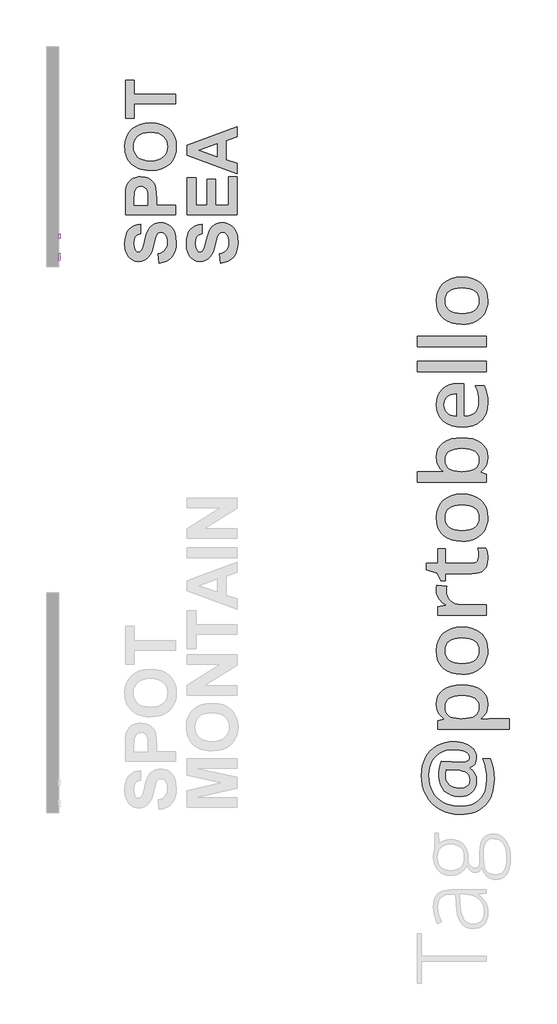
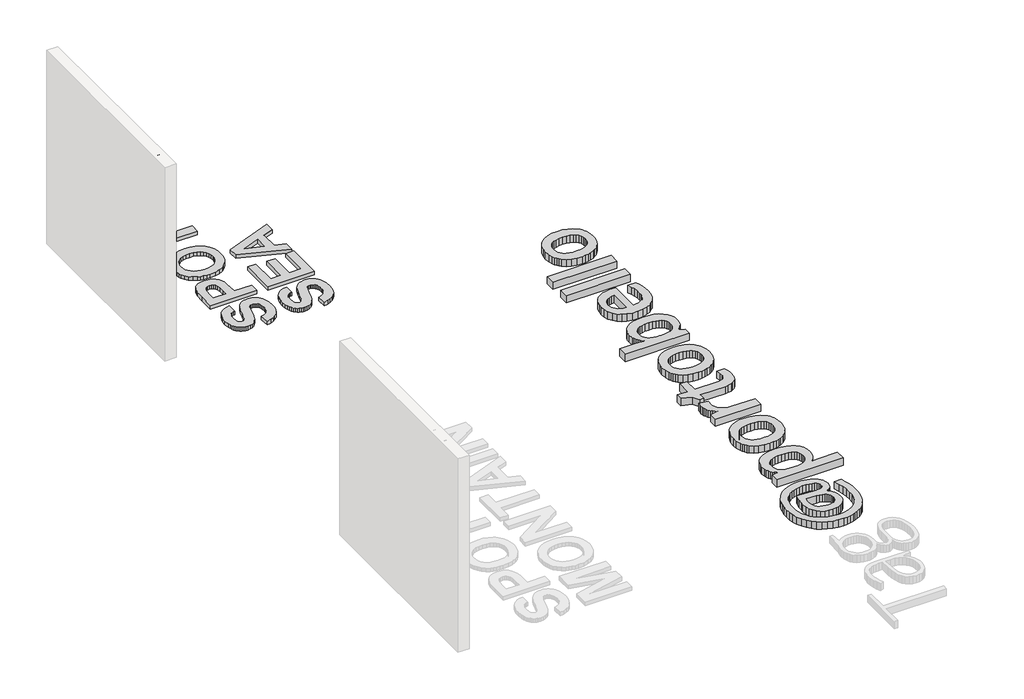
# One storey, part 3 of 7: 4 proxies.
"""IFC4 building model written with IfcOpenShell, lengths in millimetres."""

from ifc_helpers import new_model, si_unit, frame, origin, origin_with_axes, place, context, project, spatial, polyline, outline, extrude, element, save

model = new_model("IFC4")

# Units and contexts
model_context = context("Model", 3, world=origin())
ifc_project = project(units=[si_unit("LENGTHUNIT", "METRE", prefix="MILLI")], contexts=[model_context])

# Site, building, storey
site = spatial("IfcSite", under=ifc_project)
building = spatial("IfcBuilding", under=site)
storey = spatial("IfcBuildingStorey", under=building, Name="PORTOBELLO - SHOWROOM", Elevation=0.0)

# Proxies
placement = place(None, origin())
element("IfcBuildingElementProxy", 1, Name="10mm Arial", ObjectType="10mm Arial", at=placement, inside=storey, context=model_context, shape_type="SweptSolid", body=[
    extrude(outline(polyline([(-2875.3888052, 2589.5177386), (-2862.8317665, 2586.2803771), (-2868.6259079, 2571.6478707), (-2877.7187245, 2560.9578331), (-2889.6626266, 2554.4187306), (-2904.0100244, 2552.2390298), (-2918.5750858, 2553.8883674), (-2930.1419088, 2558.8363802), (-2939.0078649, 2566.91139), (-2945.4703253, 2577.9417185), (-2950.7310378, 2604.7971042), (-2949.2441814, 2619.4449389), (-2944.7836122, 2632.0939482), (-2937.5823222, 2642.3425274), (-2927.8733032, 2649.7890722), (-2916.3585968, 2654.3232178), (-2903.7402443, 2655.8345996), (-2889.9722606, 2653.8786937), (-2878.5893786, 2648.0109759), (-2869.9472174, 2638.5931968), (-2864.4013963, 2625.9871071), (-2876.9584351, 2622.9950002), (-2887.2591309, 2638.4337812), (-2904.2307536, 2643.2775609), (-2923.8756522, 2637.9064837), (-2934.9734257, 2623.4855095), (-2938.1739991, 2604.8216296), (-2934.3848145, 2583.1901683), (-2922.5880652, 2569.370068), (-2905.2608232, 2564.7960685), (-2894.7792521, 2566.3534357), (-2886.0451204, 2571.025537), (-2879.4508356, 2578.7633216), (-2875.3888052, 2589.5177386)])), frame((40576.625413, 0.0, 0.0), z_axis=(1.0, 0.0, 0.0), x_axis=(0.0, 1.0, 0.0)), (0.0, 0.0, 1.0), 20.0),
    extrude(outline(polyline([(-2847.135468, 2553.8086596), (-2847.135468, 2627.5812624), (-2836.1480591, 2627.5812624), (-2836.1480591, 2616.6674299), (-2828.3489608, 2626.7228711), (-2820.5008115, 2629.1508922), (-2807.8947218, 2625.2758686), (-2812.0885766, 2614.0186795), (-2820.9177445, 2616.5938535), (-2828.017867, 2614.1167814), (-2832.5428155, 2607.2496508), (-2834.5784292, 2592.5834219), (-2834.5784292, 2553.8086596), (-2847.135468, 2553.8086596)])), frame((40576.625413, 0.0, 0.0), z_axis=(1.0, 0.0, 0.0), x_axis=(0.0, 1.0, 0.0)), (0.0, 0.0, 1.0), 20.0),
    extrude(outline(polyline([(-2752.9576772, 2553.8086596), (-2752.9576772, 2566.4883257), (-2762.7923892, 2555.8013538), (-2775.6192081, 2552.2390298), (-2787.4282202, 2554.7406273), (-2795.570675, 2561.0191467), (-2799.3108086, 2570.2652475), (-2800.0465726, 2581.9393695), (-2800.0465726, 2627.5812624), (-2787.4895338, 2627.5812624), (-2787.4895338, 2587.8500069), (-2786.7292444, 2575.0477135), (-2781.7628375, 2567.530658), (-2772.406372, 2564.7960685), (-2761.9217352, 2567.5919717), (-2754.9932909, 2575.207129), (-2752.9576772, 2589.1989076), (-2752.9576772, 2627.5812624), (-2740.4006385, 2627.5812624), (-2740.4006385, 2553.8086596), (-2752.9576772, 2553.8086596)])), frame((40576.625413, 0.0, 0.0), z_axis=(1.0, 0.0, 0.0), x_axis=(0.0, 1.0, 0.0)), (0.0, 0.0, 1.0), 20.0),
])
element("IfcBuildingElementProxy", 2, Name="10mm Arial Narrow", ObjectType="10mm Arial Narrow", at=placement, inside=storey, context=model_context, shape_type="SweptSolid", body=[
    extrude(outline(polyline([(-2683.7082487, 2553.8086596), (-2683.7082487, 2654.5272634), (-2652.411364, 2654.5272634), (-2636.1156625, 2652.6489426), (-2624.6426764, 2643.1684995), (-2620.3529979, 2626.1493906), (-2622.1393063, 2614.0735651), (-2627.4982315, 2604.4471713), (-2637.2420203, 2598.1459129), (-2652.1829196, 2596.0454935), (-2673.961287, 2596.0454935), (-2673.961287, 2553.8086596), (-2683.7082487, 2553.8086596)]), holes=[polyline([(-2673.961287, 2607.4169487), (-2650.9899321, 2607.4169487), (-2635.1257367, 2611.9477629), (-2630.0999596, 2625.6163537), (-2632.5747741, 2635.7821301), (-2638.5524029, 2641.5820799), (-2651.2183765, 2643.1558081), (-2673.961287, 2643.1558081), (-2673.961287, 2607.4169487)])]), frame((40576.625413, 0.0, 0.0), z_axis=(1.0, 0.0, 0.0), x_axis=(0.0, 1.0, 0.0)), (0.0, 0.0, 1.0), 20.0),
    extrude(outline(polyline([(-2612.2305299, 2590.3597658), (-2610.276061, 2606.9505414), (-2604.4126544, 2618.9026262), (-2595.5540877, 2626.1271808), (-2584.6141385, 2628.5353656), (-2573.8011029, 2626.1271808), (-2564.9171535, 2618.9026262), (-2558.9775988, 2607.1409117), (-2556.9977472, 2591.1212472), (-2558.9426975, 2573.9593606), (-2564.7775486, 2561.8169055), (-2573.6265968, 2554.5923509), (-2584.6141385, 2552.184166), (-2595.4747667, 2554.5986966), (-2604.3491976, 2561.8422882), (-2610.2601968, 2573.8007187), (-2612.2305299, 2590.3597658)]), holes=[polyline([(-2602.4835682, 2590.3851485), (-2601.1795314, 2577.8333971), (-2597.2674208, 2568.9621391), (-2591.426224, 2563.6888805), (-2584.3349287, 2561.9311277), (-2577.6148555, 2563.7047447), (-2571.9227822, 2569.0255959), (-2568.0392272, 2577.9127181), (-2566.7447088, 2590.3851485), (-2568.0487457, 2602.8988259), (-2571.9608563, 2611.7573926), (-2577.802053, 2617.0306511), (-2584.8933484, 2618.788404), (-2591.6610141, 2617.0211326), (-2597.3435689, 2611.7193185), (-2601.1985684, 2602.8512333), (-2602.4835682, 2590.3851485)])]), frame((40576.625413, 0.0, 0.0), z_axis=(1.0, 0.0, 0.0), x_axis=(0.0, 1.0, 0.0)), (0.0, 0.0, 1.0), 20.0),
    extrude(outline(polyline([(-2485.5200284, 2561.9311277), (-2483.8955348, 2552.184166), (-2491.2565214, 2552.184166), (-2499.5312858, 2554.3036225), (-2503.8463469, 2560.1035724), (-2505.0139517, 2574.7493976), (-2505.0139517, 2617.1639104), (-2513.1364197, 2617.1639104), (-2513.1364197, 2620.4128976), (-2514.7609133, 2615.5394168), (-2522.3249617, 2617.1639104), (-2528.4041214, 2614.8413922), (-2532.2749851, 2608.3561091), (-2534.2548366, 2592.9488025), (-2534.2548366, 2553.8086596), (-2544.0017983, 2553.8086596), (-2544.0017983, 2626.910872), (-2534.2548366, 2626.910872), (-2534.2548366, 2617.2146758), (-2528.0106893, 2626.3016869), (-2521.6142458, 2628.5353656), (-2513.1364197, 2626.910872), (-2505.0139517, 2626.910872), (-2505.0139517, 2643.1558081), (-2495.26699, 2651.2782762), (-2495.26699, 2626.910872), (-2485.5200284, 2626.910872), (-2485.5200284, 2617.1639104), (-2495.26699, 2617.1639104), (-2495.26699, 2572.5157188), (-2494.4039778, 2564.5201644), (-2489.7843241, 2561.9311277), (-2485.5200284, 2561.9311277)])), frame((40576.625413, 0.0, 0.0), z_axis=(1.0, 0.0, 0.0), x_axis=(0.0, 1.0, 0.0)), (0.0, 0.0, 1.0), 20.0),
    extrude(outline(polyline([(-2479.0220539, 2590.3597658), (-2477.0675851, 2606.9505414), (-2471.2041785, 2618.9026262), (-2462.3456117, 2626.1271808), (-2451.4056626, 2628.5353656), (-2440.592627, 2626.1271808), (-2431.7086776, 2618.9026262), (-2425.7691228, 2607.1409117), (-2423.7892712, 2591.1212472), (-2425.7342216, 2573.9593606), (-2431.5690727, 2561.8169055), (-2440.4181209, 2554.5923509), (-2451.4056626, 2552.184166), (-2462.2662908, 2554.5986966), (-2471.1407217, 2561.8422882), (-2477.0517209, 2573.8007187), (-2479.0220539, 2590.3597658)]), holes=[polyline([(-2469.2750923, 2590.3851485), (-2467.9710554, 2577.8333971), (-2464.0589448, 2568.9621391), (-2458.2177481, 2563.6888805), (-2451.1264528, 2561.9311277), (-2444.4063796, 2563.7047447), (-2438.7143063, 2569.0255959), (-2434.8307512, 2577.9127181), (-2433.5362329, 2590.3851485), (-2434.8402698, 2602.8988259), (-2438.7523803, 2611.7573926), (-2444.5935771, 2617.0306511), (-2451.6848724, 2618.788404), (-2458.4525382, 2617.0211326), (-2464.135093, 2611.7193185), (-2467.9900925, 2602.8512333), (-2469.2750923, 2590.3851485)])]), frame((40576.625413, 0.0, 0.0), z_axis=(1.0, 0.0, 0.0), x_axis=(0.0, 1.0, 0.0)), (0.0, 0.0, 1.0), 20.0),
    extrude(outline(polyline([(-2401.0463607, 2553.8086596), (-2410.7933224, 2553.8086596), (-2410.7933224, 2654.5272634), (-2401.0463607, 2654.5272634), (-2401.0463607, 2619.1183792), (-2393.6473, 2626.2001561), (-2384.4460667, 2628.5353656), (-2371.56434, 2624.3345267), (-2362.2869585, 2611.6050963), (-2358.8095269, 2590.9181855), (-2360.7417859, 2574.463842), (-2366.5385629, 2562.2611029), (-2374.9116852, 2554.7034002), (-2384.5729802, 2552.184166), (-2393.9138185, 2554.7985854), (-2401.0463607, 2562.5656955), (-2401.0463607, 2553.8086596)]), holes=[polyline([(-2401.0463607, 2590.9181855), (-2398.9649783, 2573.6706323), (-2393.0761889, 2564.9389791), (-2384.6237456, 2561.9311277), (-2378.681018, 2563.7206089), (-2373.4426607, 2569.0890526), (-2368.5564885, 2590.5120621), (-2373.2649817, 2611.9477629), (-2378.5096847, 2617.0782437), (-2384.8268073, 2618.788404), (-2390.8044362, 2616.9989227), (-2396.0967318, 2611.630479), (-2401.0463607, 2590.9181855)])]), frame((40576.625413, 0.0, 0.0), z_axis=(1.0, 0.0, 0.0), x_axis=(0.0, 1.0, 0.0)), (0.0, 0.0, 1.0), 20.0),
    extrude(outline(polyline([(-2306.8257314, 2576.5515701), (-2297.0787697, 2574.9270765), (-2300.7783001, 2565.04051), (-2306.597287, 2557.9206591), (-2314.3009403, 2553.6182893), (-2323.6544699, 2552.184166), (-2335.2480239, 2554.5986966), (-2344.3921461, 2561.8422882), (-2350.3317009, 2573.6484224), (-2352.3115525, 2589.7505807), (-2350.3221823, 2606.4175044), (-2344.354072, 2618.5980336), (-2335.3400362, 2626.0510326), (-2324.2128896, 2628.5353656), (-2313.5299404, 2626.1366993), (-2304.782423, 2618.9407003), (-2298.947572, 2607.2011957), (-2297.0026216, 2591.1720126), (-2297.0787697, 2587.9230254), (-2342.5645908, 2587.9230254), (-2336.5615793, 2568.4798675), (-2330.631543, 2563.5683126), (-2323.5275563, 2561.9311277), (-2313.3490885, 2565.5862383), (-2306.8257314, 2576.5515701)]), holes=[polyline([(-2341.9046403, 2597.6699871), (-2306.8257314, 2597.6699871), (-2311.0900271, 2611.9350716), (-2316.9153597, 2617.0750709), (-2324.1367414, 2618.788404), (-2336.3458262, 2613.0772936), (-2341.9046403, 2597.6699871)])]), frame((40576.625413, 0.0, 0.0), z_axis=(1.0, 0.0, 0.0), x_axis=(0.0, 1.0, 0.0)), (0.0, 0.0, 1.0), 20.0),
    extrude(outline(polyline([(40596.625413, -2274.3358592), (40596.625413, -2284.0828209), (40576.625413, -2284.0828209), (40576.625413, -2274.3358592), (40596.625413, -2274.3358592)])), frame((0.0, 0.0, 2553.8086596), z_axis=(0.0, 0.0, 1.0), x_axis=(1.0, 0.0, 0.0)), (0.0, 0.0, 1.0), 100.7186038),
    extrude(outline(polyline([(40596.625413, -2248.3439615), (40596.625413, -2258.0909231), (40576.625413, -2258.0909231), (40576.625413, -2248.3439615), (40596.625413, -2248.3439615)])), frame((0.0, 0.0, 2553.8086596), z_axis=(0.0, 0.0, 1.0), x_axis=(1.0, 0.0, 0.0)), (0.0, 0.0, 1.0), 100.7186038),
    extrude(outline(polyline([(-2236.9725062, 2590.3597658), (-2235.0180373, 2606.9505414), (-2229.1546307, 2618.9026262), (-2220.296064, 2626.1271808), (-2209.3561149, 2628.5353656), (-2198.5430793, 2626.1271808), (-2189.6591299, 2618.9026262), (-2183.7195751, 2607.1409117), (-2181.7397235, 2591.1212472), (-2183.6846739, 2573.9593606), (-2189.5195249, 2561.8169055), (-2198.3685731, 2554.5923509), (-2209.3561149, 2552.184166), (-2220.216743, 2554.5986966), (-2229.0911739, 2561.8422882), (-2235.0021731, 2573.8007187), (-2236.9725062, 2590.3597658)]), holes=[polyline([(-2227.2255446, 2590.3851485), (-2225.9215077, 2577.8333971), (-2222.0093971, 2568.9621391), (-2216.1682004, 2563.6888805), (-2209.076905, 2561.9311277), (-2202.3568319, 2563.7047447), (-2196.6647585, 2569.0255959), (-2192.7812035, 2577.9127181), (-2191.4866852, 2590.3851485), (-2192.790722, 2602.8988259), (-2196.7028326, 2611.7573926), (-2202.5440294, 2617.0306511), (-2209.6353247, 2618.788404), (-2216.4029905, 2617.0211326), (-2222.0855453, 2611.7193185), (-2225.9405447, 2602.8512333), (-2227.2255446, 2590.3851485)])]), frame((40576.625413, 0.0, 0.0), z_axis=(1.0, 0.0, 0.0), x_axis=(0.0, 1.0, 0.0)), (0.0, 0.0, 1.0), 20.0),
])
element("IfcBuildingElementProxy", 3, Name="600mm Arial", ObjectType="600mm Arial", at=placement, inside=storey, context=model_context, shape_type="SweptSolid", body=[
    extrude(outline(polyline([(41805.8725694, -2982.5026004), (41796.1558132, -2865.9015261), (41824.2243335, -2858.8416954), (41848.3074656, -2848.8972028), (41868.4052093, -2836.0680481), (41884.5175648, -2820.3542315), (41896.8722685, -2801.7083077), (41905.6970568, -2780.0828318), (41910.9919298, -2755.4778037), (41912.7568875, -2727.8932233), (41911.1959437, -2698.9042681), (41906.5131125, -2673.7298988), (41898.7083938, -2652.3701154), (41887.7817876, -2634.824918), (41874.767597, -2621.1417515), (41860.7001253, -2611.3680612), (41845.5793724, -2605.503847), (41829.4053383, -2603.549109), (41809.5732871, -2606.7943537), (41792.8915904, -2616.5300879), (41778.7909071, -2634.3884231), (41766.701896, -2662.0014704), (41740.7399381, -2763.1164645), (41728.0720967, -2810.0491561), (41713.9049903, -2849.4285879), (41698.2386187, -2881.25476), (41681.0729821, -2905.5276724), (41654.4942379, -2930.7020418), (41625.1636779, -2948.6837341), (41593.0813022, -2959.4727495), (41558.2471109, -2963.069088), (41535.3216392, -2961.4179986), (41513.1552892, -2956.4647303), (41491.7480607, -2948.2092831), (41471.0999538, -2936.6516571), (41452.0365132, -2921.9816326), (41435.3832836, -2904.3889901), (41421.140265, -2883.8737294), (41409.3074574, -2860.4358507), (41400.0082181, -2834.2556453), (41393.3659043, -2805.5134046), (41388.0520532, -2740.3428172), (41391.3637211, -2686.4309517), (41401.2987247, -2639.6263619), (41417.8570642, -2599.929048), (41441.0387393, -2567.3390097), (41469.743024, -2541.7518681), (41502.8691918, -2523.0632437), (41540.4172428, -2511.2731367), (41582.387177, -2506.3815471), (41582.387177, -2622.9826214), (41560.7190005, -2628.2537718), (41542.3245358, -2635.8687101), (41527.2037829, -2645.8274363), (41515.3567417, -2658.1299504), (41506.4228297, -2673.2886594), (41500.0414639, -2691.8159704), (41494.9363713, -2738.9763984), (41500.3640906, -2788.6229495), (41507.1487397, -2808.8914956), (41516.6472484, -2826.1235555), (41532.9683623, -2841.3818992), (41553.99603, -2846.4680137), (41573.8470593, -2841.8373721), (41590.5856901, -2827.9454472), (41600.3071908, -2811.9801716), (41610.1900048, -2787.6171134), (41630.4395729, -2713.6976498), (41651.5051966, -2634.8059399), (41673.5576785, -2579.5608671), (41700.2597799, -2540.8456667), (41735.2742627, -2511.5435738), (41756.0077708, -2500.7830254), (41779.0376216, -2493.0969195), (41804.3638153, -2488.4852559), (41831.9863517, -2486.9480347), (41857.682617, -2488.765182), (41882.5438487, -2494.2166238), (41906.5700466, -2503.3023602), (41929.7612108, -2516.0223911), (41951.0735491, -2532.0683234), (41969.4632693, -2551.1317641), (41984.9303715, -2573.2127129), (41997.4748555, -2598.3111701), (42007.1726337, -2626.5552373), (42014.0996181, -2658.0730163), (42019.6412056, -2730.9297097), (42016.229903, -2785.4156609), (42005.9959952, -2833.1833861), (41988.9394823, -2874.2328854), (41965.0603642, -2908.5641588), (41934.6433115, -2936.4144316), (41897.9729948, -2958.0209295), (41855.0494141, -2973.3836524), (41805.8725694, -2982.5026004)])), origin_with_axes(), (0.0, 0.0, 1.0), 50.0),
    extrude(outline(polyline([(42009.9244494, -2389.7804728), (41397.7688094, -2389.7804728), (41397.7688094, -2192.560687), (41400.0461741, -2099.9098985), (41406.8782683, -2046.3538712), (41415.7267792, -2021.2316915), (41428.6081235, -1998.2445412), (41445.5223011, -1977.3924204), (41466.4693122, -1958.675329), (41491.0980628, -1943.2319494), (41519.0574594, -1932.200964), (41550.3475019, -1925.5823728), (41584.9681904, -1923.3761757), (41636.5315235, -1928.5571804), (41658.9683106, -1935.0334364), (41679.1751781, -1944.1001947), (41713.259737, -1967.6329636), (41739.1457827, -1996.7832322), (41757.2698104, -2028.9889651), (41768.0683148, -2061.6881271), (41774.5588043, -2116.534661), (41776.7223008, -2191.4979168), (41776.7223008, -2273.1793985), (42009.9244494, -2273.1793985), (42009.9244494, -2389.7804728)]), holes=[polyline([(41504.6531275, -2273.1793985), (41669.8379827, -2273.1793985), (41669.8379827, -2200.7592), (41667.560618, -2135.5316785), (41660.7285238, -2096.2281588), (41649.0190735, -2072.733346), (41632.1096403, -2054.931945), (41611.0250385, -2043.7159237), (41586.7900822, -2039.9772499), (41557.829594, -2045.2341669), (41534.4106933, -2061.0049176), (41517.6341065, -2084.7844011), (41508.6005597, -2114.0675159), (41504.6531275, -2209.2613617), (41504.6531275, -2273.1793985)])]), origin_with_axes(), (0.0, 0.0, 1.0), 50.0),
    extrude(outline(polyline([(41707.6422373, -1845.6421261), (41662.8350862, -1843.9246136), (41621.7855869, -1838.7720759), (41584.4937394, -1830.184513), (41550.9595437, -1818.161925), (41506.7217338, -1793.9269687), (41467.2284337, -1762.2146648), (41434.9088326, -1725.0746416), (41412.1921194, -1684.5565274), (41401.6308404, -1655.3872808), (41394.0870698, -1624.0545377), (41389.5608074, -1590.5582981), (41388.0520532, -1554.898562), (41393.2852476, -1491.7965809), (41408.9848307, -1435.3369136), (41435.1508026, -1385.5195601), (41471.7831632, -1342.3445204), (41493.7371964, -1323.6630128), (41517.7337412, -1307.4723729), (41571.8543651, -1282.5636961), (41634.1450351, -1267.6184901), (41704.605751, -1262.6367547), (41774.5872714, -1267.580534), (41836.503125, -1282.4118718), (41890.3533119, -1307.1307682), (41914.2537803, -1323.1980508), (41936.1378321, -1341.7372231), (41972.670558, -1384.6275922), (41998.7653622, -1434.1982312), (42014.4222447, -1490.4491401), (42019.6412056, -1553.3803189), (42014.4459673, -1616.975729), (41998.8602524, -1673.7010889), (41972.8840609, -1723.5563985), (41936.5173929, -1766.5416578), (41891.0412659, -1801.1481127), (41837.7366976, -1825.8670091), (41776.6036881, -1840.6983469), (41707.6422373, -1845.6421261)]), holes=[polyline([(41703.3911565, -1729.0410519), (41751.8136241, -1725.9428869), (41793.9923167, -1716.6483921), (41829.9272344, -1701.1575674), (41859.6183771, -1679.4704129), (41882.8664754, -1653.0102814), (41899.4722599, -1623.2005259), (41909.4357306, -1590.0411465), (41912.7568875, -1553.5321432), (41909.4594531, -1517.0610959), (41899.5671501, -1484.0155847), (41883.0799783, -1454.3956097), (41859.9979379, -1428.2011708), (41830.3210287, -1406.7797088), (41794.0492508, -1391.4786645), (41751.1826043, -1382.2980379), (41701.721089, -1379.237829), (41652.9475276, -1382.2173812), (41610.778324, -1391.1560378), (41575.2134781, -1406.0537987), (41546.2529899, -1426.9106641), (41523.8019693, -1452.7018197), (41507.765526, -1482.4024514), (41498.14366, -1516.0125592), (41494.9363713, -1553.5321432), (41498.1816161, -1591.0896832), (41507.9173503, -1624.8136593), (41524.143574, -1654.7040714), (41546.8602872, -1680.7609195), (41576.114935, -1701.8834774), (41611.9549625, -1716.9710188), (41654.3803696, -1726.0235436), (41703.3911565, -1729.0410519)])]), origin_with_axes(), (0.0, 0.0, 1.0), 50.0),
    extrude(outline(polyline([(42009.9244494, -1029.4346062), (41504.6531275, -1029.4346062), (41504.6531275, -1204.3362176), (41397.7688094, -1204.3362176), (41397.7688094, -737.9319205), (41504.6531275, -737.9319205), (41504.6531275, -912.8335319), (42009.9244494, -912.8335319), (42009.9244494, -1029.4346062)])), origin_with_axes(), (0.0, 0.0, 1.0), 50.0),
    extrude(outline(polyline([(42561.3406684, -2982.5026004), (42551.6239122, -2865.9015261), (42579.6924326, -2858.8416954), (42603.7755646, -2848.8972028), (42623.8733084, -2836.0680481), (42639.9856638, -2820.3542315), (42652.3403675, -2801.7083077), (42661.1651559, -2780.0828318), (42666.4600289, -2755.4778037), (42668.2249865, -2727.8932233), (42666.6640428, -2698.9042681), (42661.9812116, -2673.7298988), (42654.1764928, -2652.3701154), (42643.2498866, -2634.824918), (42630.2356961, -2621.1417515), (42616.1682244, -2611.3680612), (42601.0474714, -2605.503847), (42584.8734373, -2603.549109), (42565.0413861, -2606.7943537), (42548.3596895, -2616.5300879), (42534.2590062, -2634.3884231), (42522.169995, -2662.0014704), (42496.2080371, -2763.1164645), (42483.5401958, -2810.0491561), (42469.3730893, -2849.4285879), (42453.7067178, -2881.25476), (42436.5410811, -2905.5276724), (42409.9623369, -2930.7020418), (42380.6317769, -2948.6837341), (42348.5494013, -2959.4727495), (42313.7152099, -2963.069088), (42290.7897383, -2961.4179986), (42268.6233882, -2956.4647303), (42247.2161597, -2948.2092831), (42226.5680528, -2936.6516571), (42207.5046122, -2921.9816326), (42190.8513826, -2904.3889901), (42176.608364, -2883.8737294), (42164.7755564, -2860.4358507), (42155.4763171, -2834.2556453), (42148.8340033, -2805.5134046), (42143.5201523, -2740.3428172), (42146.8318201, -2686.4309517), (42156.7668238, -2639.6263619), (42173.3251632, -2599.929048), (42196.5068384, -2567.3390097), (42225.211123, -2541.7518681), (42258.3372908, -2523.0632437), (42295.8853419, -2511.2731367), (42337.8552761, -2506.3815471), (42337.8552761, -2622.9826214), (42316.1870995, -2628.2537718), (42297.7926348, -2635.8687101), (42282.6718819, -2645.8274363), (42270.8248408, -2658.1299504), (42261.8909287, -2673.2886594), (42255.509563, -2691.8159704), (42250.4044704, -2738.9763984), (42255.8321896, -2788.6229495), (42262.6168387, -2808.8914956), (42272.1153475, -2826.1235555), (42288.4364614, -2841.3818992), (42309.4641291, -2846.4680137), (42329.3151583, -2841.8373721), (42346.0537891, -2827.9454472), (42355.7752898, -2811.9801716), (42365.6581038, -2787.6171134), (42385.9076719, -2713.6976498), (42406.9732957, -2634.8059399), (42429.0257775, -2579.5608671), (42455.727879, -2540.8456667), (42490.7423617, -2511.5435738), (42511.4758698, -2500.7830254), (42534.5057207, -2493.0969195), (42559.8319143, -2488.4852559), (42587.4544507, -2486.9480347), (42613.1507161, -2488.765182), (42638.0119477, -2494.2166238), (42662.0381457, -2503.3023602), (42685.2293099, -2516.0223911), (42706.5416481, -2532.0683234), (42724.9313684, -2551.1317641), (42740.3984705, -2573.2127129), (42752.9429546, -2598.3111701), (42762.6407327, -2626.5552373), (42769.5677171, -2658.0730163), (42775.1093046, -2730.9297097), (42771.698002, -2785.4156609), (42761.4640943, -2833.1833861), (42744.4075813, -2874.2328854), (42720.5284632, -2908.5641588), (42690.1114105, -2936.4144316), (42653.4410938, -2958.0209295), (42610.5175131, -2973.3836524), (42561.3406684, -2982.5026004)])), origin_with_axes(), (0.0, 0.0, 1.0), 50.0),
    extrude(outline(polyline([(42765.3925484, -2389.7804728), (42153.2369085, -2389.7804728), (42153.2369085, -1933.0929319), (42260.1212265, -1933.0929319), (42260.1212265, -2273.1793985), (42396.1558132, -2273.1793985), (42396.1558132, -1952.5264442), (42503.0401313, -1952.5264442), (42503.0401313, -2273.1793985), (42658.5082303, -2273.1793985), (42658.5082303, -1923.3761757), (42765.3925484, -1923.3761757), (42765.3925484, -2389.7804728)])), origin_with_axes(), (0.0, 0.0, 1.0), 50.0),
    extrude(outline(polyline([(42765.3925484, -1311.2205357), (42765.3925484, -1433.7427583), (42629.3579618, -1481.719242), (42629.3579618, -1712.9476744), (42765.3925484, -1760.3168609), (42765.3925484, -1884.5091509), (42153.2369085, -1661.0237585), (42153.2369085, -1536.8314685), (42765.3925484, -1311.2205357)]), holes=[polyline([(42522.4736437, -1519.0680236), (42298.9882513, -1597.8648433), (42522.4736437, -1675.5988928), (42522.4736437, -1519.0680236)])]), origin_with_axes(), (0.0, 0.0, 1.0), 50.0),
])
element("IfcBuildingElementProxy", 4, Name="80mm OpenSans Bold", ObjectType="80mm OpenSans Bold", at=placement, inside=storey, context=model_context, shape_type="SweptSolid", body=[
    extrude(outline(polyline([(45426.3635476, -8851.478584), (45464.4691623, -8853.0259439), (45500.9072338, -8857.6680235), (45535.6777621, -8865.4048229), (45568.7807473, -8876.2363419), (45599.2622345, -8889.8771455), (45626.1682687, -8906.0417981), (45649.4988501, -8924.7302998), (45669.2539785, -8945.9426507), (45684.9754553, -8969.2882549), (45696.2050815, -8994.3765169), (45702.9428572, -9021.2074366), (45705.1887825, -9049.781014), (45699.4800762, -9090.4029664), (45692.3441933, -9108.5506433), (45682.3539572, -9125.2561207), (45669.9300095, -9139.9335051), (45655.4929917, -9151.996903), (45639.0429038, -9161.4463142), (45620.5797457, -9168.2817389), (45620.5797457, -9175.0120032), (45657.5961993, -9205.1780092), (45684.0365233, -9241.8339129), (45699.9007177, -9284.198523), (45705.1887825, -9331.4906479), (45701.635864, -9374.1557162), (45690.9771083, -9412.0134528), (45673.2125157, -9445.0638578), (45648.3420859, -9473.3069312), (45617.4023999, -9495.9164128), (45581.4300387, -9512.0660425), (45540.4250021, -9521.7558204), (45494.3872902, -9524.9857463), (45441.2437413, -9520.7042166), (45393.3431884, -9507.8596274), (45350.6856316, -9486.4519787), (45313.2710708, -9456.4812705), (45282.8271409, -9419.2995649), (45261.0814767, -9376.2589238), (45248.0340782, -9327.3593473), (45243.6849454, -9272.6008354), (45245.5177406, -9228.2832469), (45251.0161261, -9179.4587849), (45259.7594605, -9131.2352394), (45271.3271023, -9088.7204003), (45522.5101803, -9100.979096), (45535.2496091, -9100.979096), (45573.1073458, -9097.3735972), (45600.1485862, -9086.557101), (45609.6130204, -9078.4447289), (45616.3733305, -9068.5296074), (45621.7815786, -9043.2911163), (45618.3187975, -9022.5369643), (45607.9304543, -9004.021226), (45590.616549, -8987.7439015), (45566.3770815, -8973.7049909), (45536.7744346, -8962.4002501), (45503.3709912, -8954.3254352), (45466.1667512, -8949.4805463), (45425.1617147, -8947.8655833), (45380.0704462, -8950.2842721), (45337.818508, -8957.5403383), (45298.4059, -8969.6337819), (45261.8326223, -8986.564603), (45228.6920798, -9007.9572288), (45199.5776776, -9033.4360865), (45174.4894156, -9063.001176), (45153.4272939, -9096.6524975), (45136.7593737, -9133.6539282), (45124.8537165, -9173.2693454), (45117.7103221, -9215.4987493), (45115.3291907, -9260.3421397), (45118.31875, -9317.3165311), (45127.2874281, -9370.46008), (45142.2352249, -9419.7727866), (45163.1621405, -9465.2546507), (45189.6400217, -9506.2446644), (45221.2407158, -9542.0818194), (45257.9642226, -9572.7661159), (45299.8105422, -9598.2975538), (45345.9984832, -9618.3831863), (45395.7468542, -9632.7300666), (45449.0556552, -9641.3381948), (45505.9248862, -9644.2075709), (45580.100511, -9638.851903), (45645.1872745, -9622.7848993), (45674.3223332, -9610.7346465), (45701.1851766, -9596.0065598), (45725.7758047, -9578.6006391), (45748.0942174, -9558.5168845), (45767.9526283, -9535.9318151), (45785.1632511, -9511.0219502), (45799.7260858, -9483.7872898), (45811.6411324, -9454.2278338), (45827.5278612, -9388.1345352), (45832.8234374, -9312.7420546), (45829.7287177, -9251.0279347), (45820.4445585, -9187.9917986), (45804.9709598, -9123.6336463), (45783.3079216, -9057.9534778), (45873.4453898, -9057.9534778), (45894.0568242, -9117.1737944), (45908.7792773, -9178.9780518), (45917.6127492, -9243.3662499), (45920.5572398, -9310.3383887), (45918.8615287, -9359.9534314), (45913.7743953, -9406.7629453), (45905.2958397, -9450.7669306), (45893.4258619, -9491.9653871), (45878.1644618, -9530.358315), (45859.5116395, -9565.9457141), (45837.4673949, -9598.7275846), (45812.0317281, -9628.7039264), (45783.5614332, -9655.4916552), (45752.4133044, -9678.7076868), (45718.5873416, -9698.3520213), (45682.0835448, -9714.4246586), (45642.9019141, -9726.9255987), (45601.0424495, -9735.8548417), (45556.5051509, -9741.2123874), (45509.2900183, -9742.998236), (45440.2221833, -9739.1373478), (45375.0753282, -9727.5546831), (45313.8494529, -9708.250242), (45256.5445575, -9681.2240245), (45204.4451009, -9647.3473594), (45158.835542, -9607.4915755), (45119.7158808, -9561.6566729), (45087.0861173, -9509.8426517), (45061.3744045, -9453.2212987), (45043.0088954, -9392.9644012), (45031.9895899, -9329.0719592), (45028.3164881, -9261.5439726), (45031.381162, -9203.3226796), (45040.5751837, -9148.3613584), (45055.8985533, -9096.6600089), (45077.3512708, -9048.2186312), (45104.4676258, -9004.0362489), (45136.7819081, -8965.1118856), (45174.2941178, -8931.4455412), (45217.0042548, -8903.0372158), (45264.0710361, -8880.4803144), (45314.6531787, -8864.368242), (45368.7506825, -8854.7009985), (45426.3635476, -8851.478584)]), holes=[polyline([(45496.3102229, -9419.7051835), (45525.7175719, -9418.1165106), (45551.203941, -9413.350492), (45572.7693303, -9405.4071276), (45590.4137397, -9394.2864174), (45604.1371692, -9379.9883615), (45613.9396189, -9362.5129599), (45619.8210887, -9341.8602125), (45621.7815786, -9318.0301194), (45619.3178211, -9292.7465595), (45611.9265487, -9270.4976278), (45599.6077614, -9251.2833242), (45582.3614592, -9235.1036486), (45560.187642, -9221.9586012), (45533.0863099, -9211.8481818), (45501.0574629, -9204.7723906), (45464.1011009, -9200.7312274), (45335.5049796, -9194.0009631), (45328.6545321, -9230.296317), (45326.3710495, -9268.9953367), (45329.2329141, -9302.6091008), (45337.818508, -9332.3018851), (45352.1278311, -9358.0736896), (45372.1608834, -9379.9245142), (45397.0914048, -9397.328557), (45426.0931352, -9409.7600161), (45459.1660745, -9417.2188916), (45496.3102229, -9419.7051835)])]), origin_with_axes(), (0.0, 0.0, 1.0), 100.0),
    extrude(outline(polyline([(45843.6399336, -8392.8591459), (45838.4420063, -8446.4158249), (45822.8482243, -8493.6328353), (45796.8585876, -8534.5101771), (45760.4730963, -8569.0478504), (45760.4730963, -8576.739581), (45854.4564298, -8569.0478504), (46105.1587747, -8569.0478504), (46105.1587747, -8697.8843382), (45228.3014841, -8697.8843382), (45228.3014841, -8593.5652417), (45305.4591569, -8575.5377481), (45305.4591569, -8569.0478504), (45283.7698286, -8553.2174575), (45264.9724108, -8535.5317351), (45249.0669034, -8515.9906832), (45236.0533064, -8494.5943016), (45225.9316199, -8471.3425906), (45218.7018438, -8446.23555), (45212.9180229, -8390.4554801), (45218.078393, -8337.6499466), (45233.5595031, -8291.0038068), (45259.3613534, -8250.5170607), (45295.4839438, -8216.1897082), (45340.9207392, -8188.8480096), (45394.6652046, -8169.3182248), (45456.71734, -8157.6003539), (45527.0771454, -8153.694397), (45597.6097142, -8157.667957), (45659.9397735, -8169.5886372), (45714.0673231, -8189.4564375), (45759.9923632, -8217.2713579), (45796.5881752, -8252.0869549), (45822.728041, -8292.9567853), (45838.4119605, -8339.880849), (45843.6399336, -8392.8591459)]), holes=[polyline([(45320.6022516, -8424.3471681), (45323.3965131, -8459.4331776), (45331.7792976, -8489.456466), (45345.7506052, -8514.4170332), (45365.3104358, -8534.3148793), (45390.9996142, -8549.5105541), (45423.3589653, -8560.3646076), (45462.388489, -8566.8770397), (45508.0881854, -8569.0478504), (45527.0771454, -8569.0478504), (45578.4254564, -8566.899574), (45622.1421285, -8560.4547451), (45658.2271616, -8549.7133634), (45686.6805557, -8534.6754292), (45708.2384335, -8514.7550487), (45723.6369177, -8489.3663285), (45732.8760081, -8458.5092685), (45735.955705, -8422.1838689), (45732.5455041, -8391.2592058), (45722.3149015, -8364.1052935), (45705.2638971, -8340.722132), (45681.3924909, -8321.1097212), (45651.2264849, -8305.5985652), (45615.2916809, -8294.5191681), (45573.5880789, -8287.8715298), (45526.115679, -8285.6556504), (45478.4855386, -8287.8565069), (45437.0298146, -8294.4590764), (45401.7485073, -8305.463359), (45372.6416165, -8320.8693546), (45349.8743944, -8340.5418571), (45333.6120928, -8364.3456601), (45323.8547119, -8392.2807638), (45320.6022516, -8424.3471681)])]), origin_with_axes(), (0.0, 0.0, 1.0), 100.0),
    extrude(outline(polyline([(45527.0771454, -7445.5744469), (45597.6097142, -7450.3817785), (45659.9397735, -7464.8037734), (45714.0673231, -7488.8404316), (45759.9923632, -7522.4917531), (45779.5972625, -7542.6637673), (45796.5881752, -7564.7211569), (45810.9651014, -7588.6639219), (45822.728041, -7614.4920623), (45838.4119605, -7671.8044691), (45843.6399336, -7736.6583775), (45841.2287564, -7778.3093992), (45833.9952245, -7817.4515948), (45821.9393382, -7854.0849642), (45805.0610972, -7888.2095073), (45783.6834944, -7919.1867506), (45758.1295221, -7946.3782201), (45728.3991806, -7969.783916), (45694.4924696, -7989.4038383), (45657.0328401, -8004.9149943), (45616.6437429, -8015.9943914), (45573.325178, -8022.6420297), (45527.0771454, -8024.8579091), (45457.1079357, -8020.0881347), (45395.2661211, -8005.7788117), (45341.5517015, -7981.9299399), (45295.9646769, -7948.5415194), (45276.5006174, -7928.4840548), (45259.6317658, -7906.4698561), (45245.3581221, -7882.4989232), (45233.6796864, -7856.571256), (45218.1084388, -7798.8457191), (45212.9180229, -7733.2932453), (45218.2361335, -7670.3998269), (45234.1904654, -7614.4019248), (45260.7810185, -7565.299539), (45298.0077929, -7523.0926695), (45344.2332911, -7489.1784471), (45397.820016, -7464.9540026), (45458.7679674, -7450.4193358), (45527.0771454, -7445.5744469)]), holes=[polyline([(45527.0771454, -7892.1755559), (45576.0330578, -7889.7117985), (45618.4615152, -7882.3205261), (45654.3625176, -7870.0017388), (45683.7360651, -7852.7554365), (45706.5821575, -7830.5816193), (45722.900795, -7803.4802872), (45732.6919775, -7771.4514402), (45735.955705, -7734.4950783), (45732.6919775, -7697.8767318), (45722.900795, -7666.1408315), (45706.5821575, -7639.2873775), (45683.7360651, -7617.3163696), (45654.3625176, -7600.2278079), (45618.4615152, -7588.0216925), (45576.0330578, -7580.6980232), (45527.0771454, -7578.2568001), (45478.6845921, -7580.7130461), (45436.7443793, -7588.0817841), (45401.256507, -7600.3630141), (45372.220975, -7617.5567362), (45349.6377835, -7639.6629503), (45333.5069324, -7666.6816564), (45323.8284218, -7698.6128545), (45320.6022516, -7735.4565446), (45323.9373379, -7773.8475946), (45333.9425969, -7806.575007), (45350.6180285, -7833.6387818), (45373.9636327, -7855.038919), (45403.5437452, -7871.2861977), (45438.9227015, -7882.8913967), (45480.1005015, -7889.8545161), (45527.0771454, -7892.1755559)])]), origin_with_axes(), (0.0, 0.0, 1.0), 100.0),
    extrude(outline(polyline([(45212.9180229, -6994.887106), (45214.3001308, -6960.2142265), (45218.4464543, -6932.1514281), (45338.6297452, -6944.4101238), (45333.582047, -6971.8119141), (45331.8994809, -7000.1751708), (45335.0392694, -7036.230158), (45344.4586348, -7068.6796466), (45360.1575772, -7097.5236364), (45382.1360965, -7122.7621275), (45409.1322682, -7143.2684015), (45439.8841678, -7157.9157401), (45474.3917952, -7166.7041432), (45512.6551505, -7169.633611), (45828.2564724, -7169.633611), (45828.2564724, -7298.4700988), (45228.3014841, -7298.4700988), (45228.3014841, -7197.5161344), (45330.4572814, -7180.4501071), (45330.4572814, -7173.9602094), (45304.8131717, -7158.1636181), (45281.9633235, -7140.0985672), (45261.9077369, -7119.7650567), (45244.6464117, -7097.1630865), (45230.7652416, -7072.9686878), (45220.8501201, -7047.8578914), (45214.9010472, -7021.8306975), (45212.9180229, -6994.887106)])), origin_with_axes(), (0.0, 0.0, 1.0), 100.0),
    extrude(outline(polyline([(45735.955705, -6575.9281538), (45732.2901146, -6528.0351124), (45721.2933435, -6480.0218877), (45821.0454749, -6480.0218877), (45829.8789468, -6504.7796456), (45837.1500359, -6535.7869347), (45842.0174592, -6570.5199057), (45843.6399336, -6606.4547097), (45840.6053055, -6649.8333663), (45831.5014212, -6687.428202), (45816.3282808, -6719.2392168), (45795.0858841, -6745.2664107), (45767.7742312, -6765.5097838), (45734.3933222, -6779.969336), (45694.9431569, -6788.6450673), (45649.4237355, -6791.5369777), (45320.6022516, -6791.5369777), (45320.6022516, -6875.1845482), (45266.5197707, -6875.1845482), (45221.8115864, -6785.5278132), (45089.850333, -6741.5407287), (45089.850333, -6661.9793901), (45228.3014841, -6661.9793901), (45228.3014841, -6486.2714188), (45320.6022516, -6486.2714188), (45320.6022516, -6661.9793901), (45645.097137, -6661.9793901), (45666.7827096, -6660.4996334), (45685.448677, -6656.060363), (45701.0950392, -6648.6615792), (45713.7217962, -6638.3032818), (45723.4491313, -6625.5262957), (45730.3972278, -6610.8714457), (45735.955705, -6575.9281538)])), origin_with_axes(), (0.0, 0.0, 1.0), 100.0),
    extrude(outline(polyline([(45527.0771454, -5814.9275558), (45597.6097142, -5819.7348874), (45659.9397735, -5834.1568823), (45714.0673231, -5858.1935405), (45759.9923632, -5891.8448619), (45779.5972625, -5912.0168762), (45796.5881752, -5934.0742658), (45810.9651014, -5958.0170308), (45822.728041, -5983.8451711), (45838.4119605, -6041.157578), (45843.6399336, -6106.0114864), (45841.2287564, -6147.6625081), (45833.9952245, -6186.8047037), (45821.9393382, -6223.438073), (45805.0610972, -6257.5626162), (45783.6834944, -6288.5398594), (45758.1295221, -6315.731329), (45728.3991806, -6339.1370249), (45694.4924696, -6358.7569471), (45657.0328401, -6374.2681031), (45616.6437429, -6385.3475003), (45573.325178, -6391.9951385), (45527.0771454, -6394.211018), (45457.1079357, -6389.4412436), (45395.2661211, -6375.1319205), (45341.5517015, -6351.2830487), (45295.9646769, -6317.8946282), (45276.5006174, -6297.8371637), (45259.6317658, -6275.822965), (45245.3581221, -6251.852032), (45233.6796864, -6225.9243649), (45218.1084388, -6168.1988279), (45212.9180229, -6102.6463542), (45218.2361335, -6039.7529358), (45234.1904654, -5983.7550337), (45260.7810185, -5934.6526479), (45298.0077929, -5892.4457784), (45344.2332911, -5858.531556), (45397.820016, -5834.3071114), (45458.7679674, -5819.7724447), (45527.0771454, -5814.9275558)]), holes=[polyline([(45527.0771454, -6261.5286648), (45576.0330578, -6259.0649073), (45618.4615152, -6251.6736349), (45654.3625176, -6239.3548476), (45683.7360651, -6222.1085454), (45706.5821575, -6199.9347282), (45722.900795, -6172.8333961), (45732.6919775, -6140.8045491), (45735.955705, -6103.8481871), (45732.6919775, -6067.2298407), (45722.900795, -6035.4939404), (45706.5821575, -6008.6404863), (45683.7360651, -5986.6694785), (45654.3625176, -5969.5809168), (45618.4615152, -5957.3748013), (45576.0330578, -5950.051132), (45527.0771454, -5947.6099089), (45478.6845921, -5950.0661549), (45436.7443793, -5957.434893), (45401.256507, -5969.716123), (45372.220975, -5986.9098451), (45349.6377835, -6009.0160591), (45333.5069324, -6036.0347652), (45323.8284218, -6067.9659633), (45320.6022516, -6104.8096534), (45323.9373379, -6143.2007034), (45333.9425969, -6175.9281158), (45350.6180285, -6202.9918907), (45373.9636327, -6224.3920279), (45403.5437452, -6240.6393065), (45438.9227015, -6252.2445056), (45480.1005015, -6259.207625), (45527.0771454, -6261.5286648)])]), origin_with_axes(), (0.0, 0.0, 1.0), 100.0),
    extrude(outline(polyline([(45212.9180229, -5359.9136164), (45218.078393, -5307.1080829), (45233.5595031, -5260.4619431), (45259.3613534, -5219.975197), (45295.4839438, -5185.6478445), (45340.9207392, -5158.3061458), (45394.6652046, -5138.7763611), (45456.71734, -5127.0584902), (45527.0771454, -5123.1525332), (45597.8050121, -5127.1035589), (45660.2402317, -5138.956636), (45714.3828043, -5158.7117644), (45760.2327297, -5186.3689443), (45796.7233814, -5221.0568466), (45822.7881327, -5261.9041426), (45838.4269834, -5308.9108323), (45843.6399336, -5362.0769156), (45838.4420063, -5415.738755), (45822.8482243, -5463.03088), (45796.8585876, -5503.9532905), (45760.4730963, -5538.5059867), (45760.4730963, -5547.1591836), (45828.2564724, -5570.7151086), (45828.2564724, -5667.3424745), (44982.1661044, -5667.3424745), (44982.1661044, -5538.5059867), (45182.1511004, -5538.5059867), (45248.1317271, -5540.6692859), (45303.7765908, -5543.7940515), (45303.7765908, -5538.5059867), (45282.481614, -5522.465273), (45264.0259674, -5504.6293215), (45248.409651, -5484.9981321), (45235.6326649, -5463.5717048), (45225.695009, -5440.3500395), (45218.5966834, -5415.3331364), (45212.9180229, -5359.9136164)]), holes=[polyline([(45320.6022516, -5393.8053044), (45323.4490933, -5429.3495127), (45331.9896184, -5459.5455645), (45346.2238269, -5484.3934599), (45366.1517188, -5503.8931989), (45392.7497834, -5518.6757437), (45426.9945099, -5529.3720565), (45468.8858982, -5535.9821375), (45518.4239484, -5538.5059867), (45527.0771454, -5538.5059867), (45578.4254564, -5536.3577103), (45622.1421285, -5529.9128814), (45658.2271616, -5519.1714997), (45686.6805557, -5504.1335655), (45708.2384335, -5484.213185), (45723.6369177, -5458.8244648), (45732.8760081, -5427.9674048), (45735.955705, -5391.6420052), (45732.5830614, -5360.1314486), (45722.4651306, -5332.6620551), (45705.6019126, -5309.2338249), (45681.9934074, -5289.8467577), (45652.0151877, -5274.6510829), (45616.0428265, -5263.7970294), (45574.0763236, -5257.2845974), (45526.115679, -5255.1137867), (45477.9484695, -5257.2808416), (45436.2035545, -5263.7820065), (45400.8809342, -5274.6172814), (45371.9806084, -5289.7866661), (45349.5025773, -5309.2901608), (45333.4468408, -5333.1277654), (45323.8133989, -5361.2994799), (45320.6022516, -5393.8053044)])]), origin_with_axes(), (0.0, 0.0, 1.0), 100.0),
    extrude(outline(polyline([(45843.6399336, -4694.3385513), (45838.4645407, -4761.1529496), (45822.9383618, -4820.2605943), (45811.2937276, -4846.9243841), (45797.0613969, -4871.6614856), (45780.2413698, -4894.4718986), (45760.8336462, -4915.3556233), (45715.5170341, -4950.2162891), (45662.3734851, -4975.1167647), (45601.4029993, -4990.05705), (45532.6055767, -4995.0371451), (45462.0730079, -4990.4175999), (45399.5025821, -4976.5589642), (45344.8942992, -4953.4612379), (45298.2481595, -4921.1244212), (45260.9162247, -4880.7052782), (45234.250557, -4833.360573), (45218.2511564, -4779.0903057), (45212.9180229, -4717.8944763), (45217.4098734, -4661.1754744), (45230.8854249, -4610.7210266), (45253.3446774, -4566.5311328), (45284.7876309, -4528.6057931), (45324.1025899, -4498.1618632), (45370.1778591, -4476.416199), (45423.0134383, -4463.3688005), (45482.6093277, -4459.0196677), (45551.3541701, -4459.0196677), (45551.3541701, -4862.354792), (45593.2530699, -4858.3887434), (45630.014134, -4849.13463), (45661.6373625, -4834.5924518), (45688.1227552, -4814.7622088), (45709.0496707, -4790.0044508), (45723.9974675, -4760.6797278), (45732.9661456, -4726.7880398), (45735.955705, -4688.3293867), (45733.4318559, -4636.5604342), (45725.8603085, -4588.457072), (45712.39978, -4540.4738931), (45692.2089871, -4489.0654904), (45800.1335823, -4489.0654904), (45820.4445585, -4536.4477528), (45833.7849038, -4584.3708401), (45841.1761762, -4635.9595177), (45843.6399336, -4694.3385513)]), holes=[polyline([(45305.2187903, -4718.1348429), (45307.6750363, -4747.1515962), (45315.0437744, -4773.1487443), (45327.3250044, -4796.1262872), (45344.5187265, -4816.084225), (45366.4146198, -4832.6770306), (45392.8023636, -4845.5591771), (45423.6819579, -4854.7306644), (45459.0534027, -4860.1914927), (45459.0534027, -4585.6928563), (45423.48666, -4588.4044918), (45392.5019054, -4595.3375654), (45366.0991386, -4606.4920771), (45344.2783599, -4621.8680268), (45327.1897982, -4640.9997045), (45314.9836827, -4663.4213997), (45307.6600134, -4689.1331125), (45305.2187903, -4718.1348429)])]), origin_with_axes(), (0.0, 0.0, 1.0), 100.0),
    extrude(outline(polyline([(45828.2564724, -4185.2421309), (45828.2564724, -4314.0786188), (44982.1661044, -4314.0786188), (44982.1661044, -4185.2421309), (45828.2564724, -4185.2421309)])), origin_with_axes(), (0.0, 0.0, 1.0), 100.0),
    extrude(outline(polyline([(45828.2564724, -3877.5729062), (45828.2564724, -4006.4093941), (44982.1661044, -4006.4093941), (44982.1661044, -3877.5729062), (45828.2564724, -3877.5729062)])), origin_with_axes(), (0.0, 0.0, 1.0), 100.0),
    extrude(outline(polyline([(45527.0771454, -3153.5887617), (45597.6097142, -3158.3960934), (45659.9397735, -3172.8180883), (45714.0673231, -3196.8547465), (45759.9923632, -3230.5060679), (45779.5972625, -3250.6780822), (45796.5881752, -3272.7354718), (45810.9651014, -3296.6782367), (45822.728041, -3322.5063771), (45838.4119605, -3379.818784), (45843.6399336, -3444.6726923), (45841.2287564, -3486.3237141), (45833.9952245, -3525.4659096), (45821.9393382, -3562.099279), (45805.0610972, -3596.2238222), (45783.6834944, -3627.2010654), (45758.1295221, -3654.392535), (45728.3991806, -3677.7982309), (45694.4924696, -3697.4181531), (45657.0328401, -3712.9293091), (45616.6437429, -3724.0087062), (45573.325178, -3730.6563445), (45527.0771454, -3732.8722239), (45457.1079357, -3728.1024496), (45395.2661211, -3713.7931265), (45341.5517015, -3689.9442547), (45295.9646769, -3656.5558342), (45276.5006174, -3636.4983697), (45259.6317658, -3614.4841709), (45245.3581221, -3590.513238), (45233.6796864, -3564.5855708), (45218.1084388, -3506.8600339), (45212.9180229, -3441.3075602), (45218.2361335, -3378.4141418), (45234.1904654, -3322.4162396), (45260.7810185, -3273.3138539), (45298.0077929, -3231.1069844), (45344.2332911, -3197.192762), (45397.820016, -3172.9683174), (45458.7679674, -3158.4336506), (45527.0771454, -3153.5887617)]), holes=[polyline([(45527.0771454, -3600.1898708), (45576.0330578, -3597.7261133), (45618.4615152, -3590.3348409), (45654.3625176, -3578.0160536), (45683.7360651, -3560.7697514), (45706.5821575, -3538.5959342), (45722.900795, -3511.4946021), (45732.6919775, -3479.465755), (45735.955705, -3442.5093931), (45732.6919775, -3405.8910466), (45722.900795, -3374.1551464), (45706.5821575, -3347.3016923), (45683.7360651, -3325.3306844), (45654.3625176, -3308.2421228), (45618.4615152, -3296.0360073), (45576.0330578, -3288.712338), (45527.0771454, -3286.2711149), (45478.6845921, -3288.7273609), (45436.7443793, -3296.0960989), (45401.256507, -3308.377329), (45372.220975, -3325.571051), (45349.6377835, -3347.6772651), (45333.5069324, -3374.6959712), (45323.8284218, -3406.6271693), (45320.6022516, -3443.4708594), (45323.9373379, -3481.8619094), (45333.9425969, -3514.5893218), (45350.6180285, -3541.6530966), (45373.9636327, -3563.0532339), (45403.5437452, -3579.3005125), (45438.9227015, -3590.9057115), (45480.1005015, -3597.868831), (45527.0771454, -3600.1898708)])]), origin_with_axes(), (0.0, 0.0, 1.0), 100.0),
])

save(model, "model.ifc")
